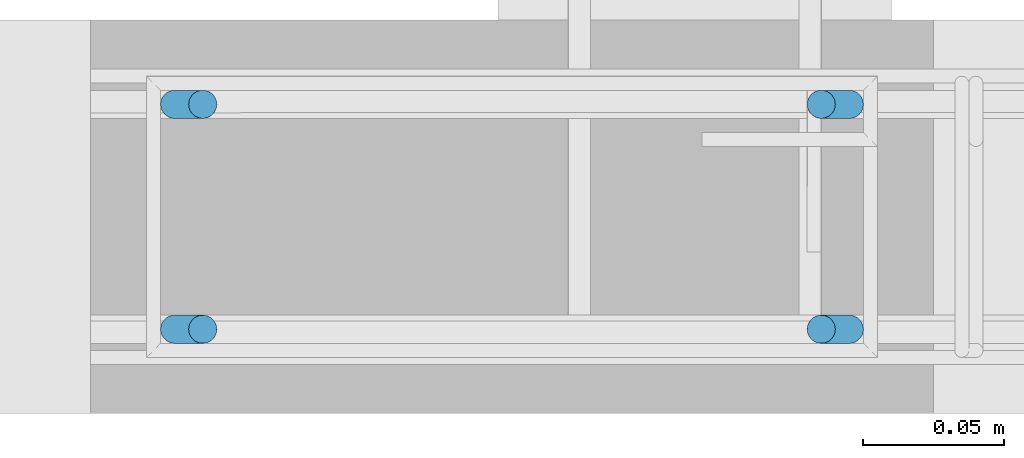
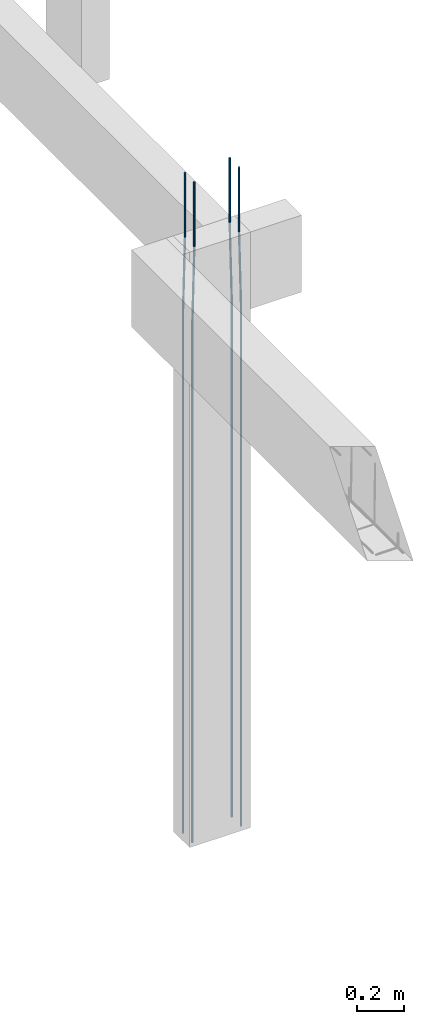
# One storey, part 23 of 236: 4 reinforcing bars.
"""IFC4 building model written with IfcOpenShell, lengths in centimetres."""

from ifc_helpers import new_model, entity, si_unit, derived_unit, frame, origin_with_axes, place, context, project, spatial, element, save


model = new_model("IFC4")

# Units and contexts
model_context = context("Model", 3, precision=1e-05, world=origin_with_axes(), identifier="Body")
ifc_project = project(units=[si_unit("LENGTHUNIT", "METRE", prefix="CENTI"), si_unit("VOLUMEUNIT", "CUBIC_METRE"), si_unit("AREAUNIT", "SQUARE_METRE"), si_unit("POWERUNIT", "WATT"), si_unit("LUMINOUSFLUXUNIT", "LUMEN"), si_unit("ELECTRICCURRENTUNIT", "AMPERE"), si_unit("PRESSUREUNIT", "PASCAL", prefix="KILO"), si_unit("MASSUNIT", "GRAM", prefix="KILO"), si_unit("PLANEANGLEUNIT", "RADIAN"), derived_unit("VOLUMETRICFLOWRATEUNIT", [(si_unit("LENGTHUNIT", "METRE"), 3), (si_unit("TIMEUNIT", "SECOND"), -1)])], contexts=[model_context])

# Site, building, storey
site_placement = place(None, frame((-4000.0, 0.0, 0.0), z_axis=(0.0, 0.0, 1.0), x_axis=(1.0, 0.0, 0.0)))
site = spatial("IfcSite", under=ifc_project, at=site_placement, Name="PADRÃO")
building_placement = place(site_placement, frame((0.0, 0.0, -14.0)))
building = spatial("IfcBuilding", under=site, at=building_placement, Name="CRECHE PRÉ-ESCOLA TIPO 2")
placement_1 = place(building_placement, origin_with_axes())
placement_2 = place(placement_1, frame((0.0, 0.0, 30.0), z_axis=(0.0, 0.0, 1.0), x_axis=(1.0, 0.0, 0.0)))
storey_placement = place(placement_2, frame((0.0, 0.0, 310.0), z_axis=(0.0, 0.0, 1.0), x_axis=(1.0, 0.0, 0.0)))
storey = spatial("IfcBuildingStorey", under=building, at=storey_placement, Name="TERREO", CompositionType="ELEMENT", Elevation=326.0)

# Reinforcing bars
for number, where, z_axis, x_axis, name in (
    (1, (281.0, 1297.5, 33.3573001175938), (0.0, 0.0, 1.0), (1.0, 0.0, 0.0), "P106 - Longitudinal"),
    (2, (281.0, 1305.5, 33.3573001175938), (0.0, 0.0, 1.0), (1.0, 0.0, 0.0), "P106 - Longitudinal"),
):
    element("IfcReinforcingBar", number, at=place(storey_placement, frame(where, z_axis=z_axis, x_axis=x_axis)), inside=storey, Name=name, BarLength=0.0, CrossSectionArea=7.853981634e-05, NominalDiameter=1.0, PredefinedType="MAIN", context=model_context, shape_type="AdvancedSweptSolid", body=[
        entity("IfcSweptDiskSolid", entity("IfcCompositeCurve", [entity("IfcCompositeCurveSegment", "CONTINUOUS", True, entity("IfcPolyline", [entity("IfcCartesianPoint", [0.5, 0.0, -343.357300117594]), entity("IfcCartesianPoint", [0.5, 0.0, -73.3573001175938])])), entity("IfcCompositeCurveSegment", "CONTINUOUS", True, entity("IfcPolyline", [entity("IfcCartesianPoint", [0.5, 0.0, -73.3573001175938]), entity("IfcCartesianPoint", [-0.5, 0.0, -33.3573001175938])])), entity("IfcCompositeCurveSegment", "CONTINUOUS", True, entity("IfcPolyline", [entity("IfcCartesianPoint", [-0.5, 0.0, -33.3573001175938]), entity("IfcCartesianPoint", [-0.5, 0.0, 0.0])]))], False), 0.5),
    ])
for number, where, z_axis, x_axis, name in (
    (3, (258.0, 1305.5, 33.3573001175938), (0.0, 0.0, 1.0), (1.0, 0.0, 0.0), "P106 - Longitudinal"),
    (4, (258.0, 1297.5, 33.3573001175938), (0.0, 0.0, 1.0), (1.0, 0.0, 0.0), "P106 - Longitudinal"),
):
    element("IfcReinforcingBar", number, at=place(storey_placement, frame(where, z_axis=z_axis, x_axis=x_axis)), inside=storey, Name=name, BarLength=0.0, CrossSectionArea=7.853981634e-05, NominalDiameter=1.0, PredefinedType="MAIN", context=model_context, shape_type="AdvancedSweptSolid", body=[
        entity("IfcSweptDiskSolid", entity("IfcCompositeCurve", [entity("IfcCompositeCurveSegment", "CONTINUOUS", True, entity("IfcPolyline", [entity("IfcCartesianPoint", [-0.5, 0.0, -343.357300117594]), entity("IfcCartesianPoint", [-0.5, 0.0, -73.3573001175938])])), entity("IfcCompositeCurveSegment", "CONTINUOUS", True, entity("IfcPolyline", [entity("IfcCartesianPoint", [-0.5, 0.0, -73.3573001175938]), entity("IfcCartesianPoint", [0.5, 0.0, -33.3573001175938])])), entity("IfcCompositeCurveSegment", "CONTINUOUS", True, entity("IfcPolyline", [entity("IfcCartesianPoint", [0.5, 0.0, -33.3573001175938]), entity("IfcCartesianPoint", [0.5, 0.0, 0.0])]))], False), 0.5),
    ])

save(model, "model.ifc")
